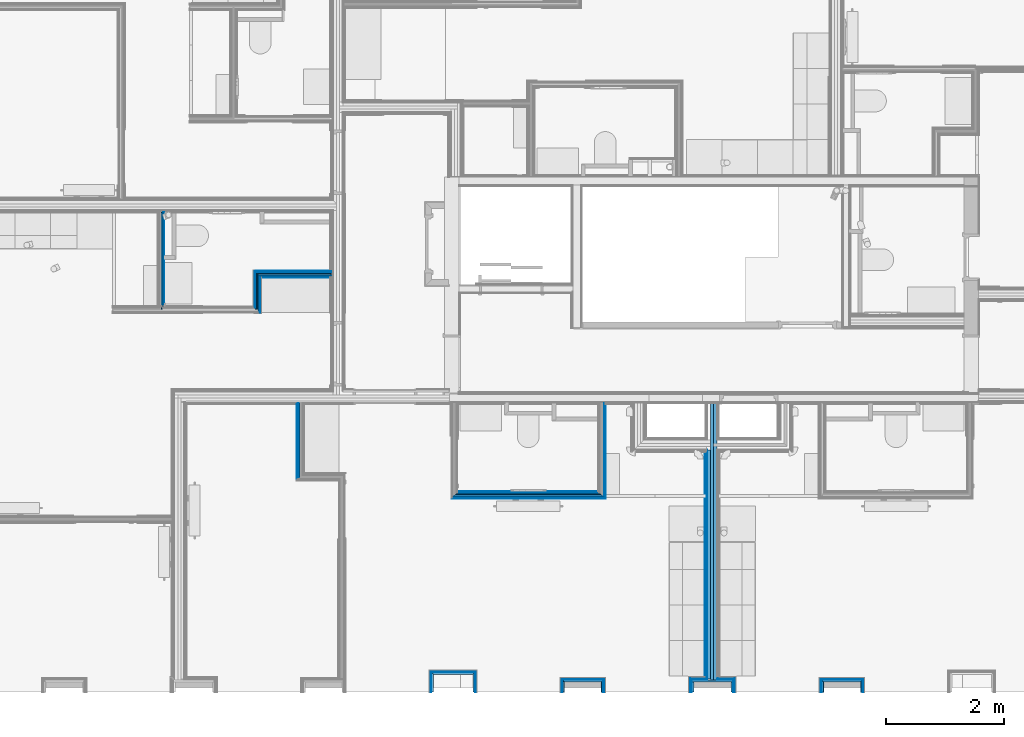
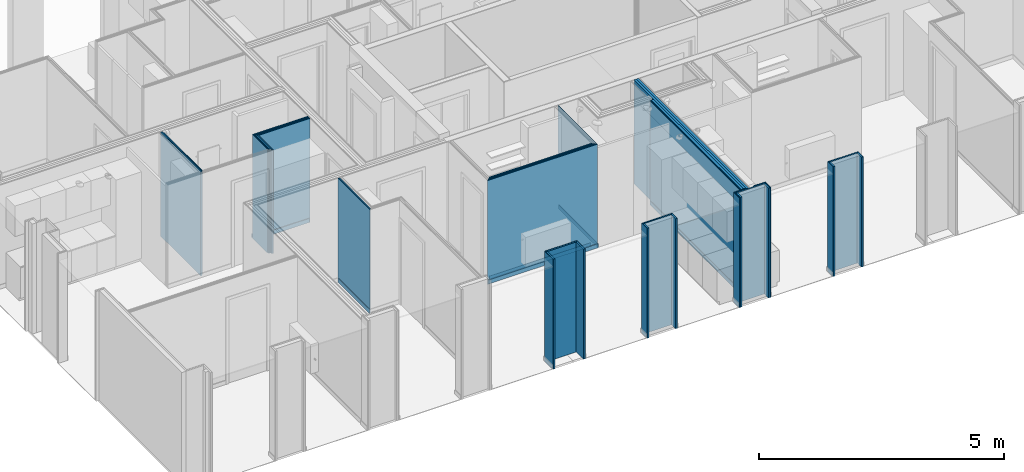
# One storey, part 11 of 82: 62 building element parts, 19 elements without a shape of their own.
"""IFC2X3 building model written with IfcOpenShell, lengths in metres."""

from ifc_helpers import new_model, entity, si_unit, converted_unit, derived_unit, money_unit, direction, frame, frame_2d, origin_with_axes, place, context, subcontext, project, spatial, polyline, rectangle, outline, extrude, material, type_object, element, aggregate, save


model = new_model("IFC2X3")

# Units and contexts
model_context = context("Model", 3, precision=1e-05, world=origin_with_axes(), true_north=direction((0.0, 1.0)))
body_context = subcontext(model_context, "Body", "Model", "MODEL_VIEW", scale=1.0)
ifc_project = project(units=[si_unit("LENGTHUNIT", "METRE"), si_unit("AREAUNIT", "SQUARE_METRE"), si_unit("VOLUMEUNIT", "CUBIC_METRE"), si_unit("ABSORBEDDOSEUNIT", "GRAY"), si_unit("AMOUNTOFSUBSTANCEUNIT", "MOLE"), si_unit("DOSEEQUIVALENTUNIT", "SIEVERT"), si_unit("ELECTRICCAPACITANCEUNIT", "FARAD"), si_unit("ELECTRICCHARGEUNIT", "COULOMB"), si_unit("ELECTRICCONDUCTANCEUNIT", "SIEMENS"), si_unit("ELECTRICCURRENTUNIT", "AMPERE"), si_unit("ELECTRICRESISTANCEUNIT", "OHM"), si_unit("ELECTRICVOLTAGEUNIT", "VOLT"), si_unit("ENERGYUNIT", "JOULE"), si_unit("FORCEUNIT", "NEWTON"), si_unit("FREQUENCYUNIT", "HERTZ"), si_unit("ILLUMINANCEUNIT", "LUX"), si_unit("INDUCTANCEUNIT", "HENRY"), si_unit("LUMINOUSFLUXUNIT", "LUMEN"), si_unit("LUMINOUSINTENSITYUNIT", "CANDELA"), si_unit("MAGNETICFLUXDENSITYUNIT", "TESLA"), si_unit("MAGNETICFLUXUNIT", "WEBER"), si_unit("MASSUNIT", "GRAM"), converted_unit("PLANEANGLEUNIT", "degree", entity("IfcReal", 0.0174532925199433), si_unit("PLANEANGLEUNIT", "RADIAN"), dimensions=[0, 0, 0, 0, 0, 0, 0]), si_unit("POWERUNIT", "WATT"), si_unit("PRESSUREUNIT", "PASCAL"), si_unit("RADIOACTIVITYUNIT", "BECQUEREL"), si_unit("SOLIDANGLEUNIT", "STERADIAN"), si_unit("THERMODYNAMICTEMPERATUREUNIT", "KELVIN"), si_unit("TIMEUNIT", "SECOND"), derived_unit("ACCELERATIONUNIT", [(si_unit("LENGTHUNIT", "METRE"), 1), (si_unit("TIMEUNIT", "SECOND"), -2)]), derived_unit("ANGULARVELOCITYUNIT", [(converted_unit("PLANEANGLEUNIT", "degree", entity("IfcReal", 0.0174532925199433), si_unit("PLANEANGLEUNIT", "RADIAN"), dimensions=[0, 0, 0, 0, 0, 0, 0]), 1), (si_unit("TIMEUNIT", "SECOND"), -1)]), derived_unit("CURVATUREUNIT", [(converted_unit("PLANEANGLEUNIT", "degree", entity("IfcReal", 0.0174532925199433), si_unit("PLANEANGLEUNIT", "RADIAN"), dimensions=[0, 0, 0, 0, 0, 0, 0]), 1), (si_unit("LENGTHUNIT", "METRE"), -1)]), derived_unit("DYNAMICVISCOSITYUNIT", [(si_unit("PRESSUREUNIT", "PASCAL"), 1), (si_unit("TIMEUNIT", "SECOND"), 1)]), derived_unit("HEATFLUXDENSITYUNIT", [(si_unit("POWERUNIT", "WATT"), 1), (si_unit("LENGTHUNIT", "METRE"), -2)]), derived_unit("HEATINGVALUEUNIT", [(si_unit("ENERGYUNIT", "JOULE"), 1), (si_unit("MASSUNIT", "GRAM"), -1)]), derived_unit("INTEGERCOUNTRATEUNIT", [(si_unit("TIMEUNIT", "SECOND"), -1)]), derived_unit("IONCONCENTRATIONUNIT", [(si_unit("MASSUNIT", "GRAM"), 1), (si_unit("VOLUMEUNIT", "CUBIC_METRE"), -1)]), derived_unit("ISOTHERMALMOISTURECAPACITYUNIT", [(si_unit("VOLUMEUNIT", "CUBIC_METRE"), 1), (si_unit("MASSUNIT", "GRAM"), -1)]), derived_unit("KINEMATICVISCOSITYUNIT", [(si_unit("AREAUNIT", "SQUARE_METRE"), 1), (si_unit("TIMEUNIT", "SECOND"), -1)]), derived_unit("LINEARFORCEUNIT", [(si_unit("FORCEUNIT", "NEWTON"), 1), (si_unit("LENGTHUNIT", "METRE"), -1)]), derived_unit("LINEARMOMENTUNIT", [(si_unit("FORCEUNIT", "NEWTON"), 1), (si_unit("LENGTHUNIT", "METRE"), -1)]), derived_unit("LINEARSTIFFNESSUNIT", [(si_unit("FORCEUNIT", "NEWTON"), 1), (si_unit("LENGTHUNIT", "METRE"), -1)]), derived_unit("LINEARVELOCITYUNIT", [(si_unit("LENGTHUNIT", "METRE"), 1), (si_unit("TIMEUNIT", "SECOND"), -1)]), derived_unit("LUMINOUSINTENSITYDISTRIBUTIONUNIT", [(si_unit("LUMINOUSINTENSITYUNIT", "CANDELA"), 1), (si_unit("LUMINOUSFLUXUNIT", "LUMEN"), -1)]), derived_unit("MASSDENSITYUNIT", [(si_unit("MASSUNIT", "GRAM"), 1), (si_unit("VOLUMEUNIT", "CUBIC_METRE"), -1)]), derived_unit("MASSFLOWRATEUNIT", [(si_unit("MASSUNIT", "GRAM"), 1), (si_unit("TIMEUNIT", "SECOND"), -1)]), derived_unit("MASSPERLENGTHUNIT", [(si_unit("MASSUNIT", "GRAM"), 1), (si_unit("LENGTHUNIT", "METRE"), -1)]), derived_unit("MODULUSOFELASTICITYUNIT", [(si_unit("FORCEUNIT", "NEWTON"), 1), (si_unit("AREAUNIT", "SQUARE_METRE"), -1)]), derived_unit("MODULUSOFLINEARSUBGRADEREACTIONUNIT", [(si_unit("FORCEUNIT", "NEWTON"), 1), (si_unit("LENGTHUNIT", "METRE"), -2)]), derived_unit("MODULUSOFROTATIONALSUBGRADEREACTIONUNIT", [(si_unit("FORCEUNIT", "NEWTON"), 1), (si_unit("LENGTHUNIT", "METRE"), 1)]), derived_unit("MODULUSOFSUBGRADEREACTIONUNIT", [(si_unit("FORCEUNIT", "NEWTON"), 1), (si_unit("VOLUMEUNIT", "CUBIC_METRE"), -1)]), derived_unit("MOISTUREDIFFUSIVITYUNIT", [(si_unit("VOLUMEUNIT", "CUBIC_METRE"), 1), (si_unit("TIMEUNIT", "SECOND"), -1)]), derived_unit("MOLECULARWEIGHTUNIT", [(si_unit("MASSUNIT", "GRAM"), 1), (si_unit("AMOUNTOFSUBSTANCEUNIT", "MOLE"), -1)]), derived_unit("PLANARFORCEUNIT", [(si_unit("FORCEUNIT", "NEWTON"), 1), (si_unit("LENGTHUNIT", "METRE"), -2)]), derived_unit("ROTATIONALFREQUENCYUNIT", [(si_unit("TIMEUNIT", "SECOND"), -1)]), derived_unit("ROTATIONALMASSUNIT", [(si_unit("MASSUNIT", "GRAM"), 1), (si_unit("LENGTHUNIT", "METRE"), 2)]), derived_unit("ROTATIONALSTIFFNESSUNIT", [(si_unit("FORCEUNIT", "NEWTON"), 1), (si_unit("LENGTHUNIT", "METRE"), 1), (converted_unit("PLANEANGLEUNIT", "degree", entity("IfcReal", 0.0174532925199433), si_unit("PLANEANGLEUNIT", "RADIAN"), dimensions=[0, 0, 0, 0, 0, 0, 0]), -1)]), derived_unit("SECTIONAREAINTEGRALUNIT", [(si_unit("LENGTHUNIT", "METRE"), 5)]), derived_unit("SECTIONMODULUSUNIT", [(si_unit("LENGTHUNIT", "METRE"), 3)]), derived_unit("SHEARMODULUSUNIT", [(si_unit("FORCEUNIT", "NEWTON"), 1), (si_unit("AREAUNIT", "SQUARE_METRE"), -1)]), derived_unit("SOUNDPOWERUNIT", [(si_unit("ENERGYUNIT", "JOULE"), 1), (si_unit("TIMEUNIT", "SECOND"), -1)]), derived_unit("SPECIFICHEATCAPACITYUNIT", [(si_unit("FORCEUNIT", "NEWTON"), 1), (si_unit("MASSUNIT", "GRAM"), -1), (si_unit("THERMODYNAMICTEMPERATUREUNIT", "KELVIN"), -1)]), derived_unit("TEMPERATUREGRADIENTUNIT", [(si_unit("THERMODYNAMICTEMPERATUREUNIT", "KELVIN"), 1), (si_unit("LENGTHUNIT", "METRE"), -1)]), derived_unit("THERMALADMITTANCEUNIT", [(si_unit("POWERUNIT", "WATT"), 1), (si_unit("AREAUNIT", "SQUARE_METRE"), -1), (si_unit("THERMODYNAMICTEMPERATUREUNIT", "KELVIN"), -1)]), derived_unit("THERMALCONDUCTANCEUNIT", [(si_unit("POWERUNIT", "WATT"), 1), (si_unit("LENGTHUNIT", "METRE"), -1), (si_unit("THERMODYNAMICTEMPERATUREUNIT", "KELVIN"), -1)]), derived_unit("THERMALEXPANSIONCOEFFICIENTUNIT", [(si_unit("THERMODYNAMICTEMPERATUREUNIT", "KELVIN"), -1)]), derived_unit("THERMALRESISTANCEUNIT", [(si_unit("AREAUNIT", "SQUARE_METRE"), 1), (si_unit("POWERUNIT", "WATT"), -1)]), derived_unit("THERMALTRANSMITTANCEUNIT", [(si_unit("POWERUNIT", "WATT"), 1), (si_unit("AREAUNIT", "SQUARE_METRE"), -1), (si_unit("THERMODYNAMICTEMPERATUREUNIT", "KELVIN"), -1)]), derived_unit("TORQUEUNIT", [(si_unit("FORCEUNIT", "NEWTON"), 1), (si_unit("LENGTHUNIT", "METRE"), 1)]), derived_unit("VAPORPERMEABILITYUNIT", [(si_unit("MASSUNIT", "GRAM"), 1), (si_unit("TIMEUNIT", "SECOND"), -1)]), derived_unit("VOLUMETRICFLOWRATEUNIT", [(si_unit("VOLUMEUNIT", "CUBIC_METRE"), 1), (si_unit("TIMEUNIT", "SECOND"), -1)]), derived_unit("WARPINGCONSTANTUNIT", [(si_unit("LENGTHUNIT", "METRE"), 6)]), derived_unit("WARPINGMOMENTUNIT", [(si_unit("FORCEUNIT", "NEWTON"), 1), (si_unit("LENGTHUNIT", "METRE"), 2)]), money_unit("GBP")], contexts=[model_context])

# Site, building, storey
site_placement = place(None, origin_with_axes())
site = spatial("IfcSite", under=ifc_project, at=site_placement, Name="Site", CompositionType="ELEMENT")
building_placement = place(site_placement, origin_with_axes())
building = spatial("IfcBuilding", under=site, at=building_placement, Name="Building01", CompositionType="ELEMENT")
storey_placement = place(building_placement, frame((0.0, 0.0, 12.13), z_axis=(0.0, 0.0, 1.0), x_axis=(1.0, 0.0, 0.0)))
storey = spatial("IfcBuildingStorey", under=building, at=storey_placement, Name="3F", CompositionType="ELEMENT", Elevation=12.13)

# Wall, building element parts
wall_type_1 = type_object("IfcWallType", Name="SHE_A-Walls_Type06d_ExternalWallInsulation_48mm", PredefinedType="NOTDEFINED")
wall_1_placement = place(storey_placement, frame((8.79, 0.1, 0.0), z_axis=(0.0, 0.0, 1.0), x_axis=(0.0, 1.0, 0.0)))
wall_1 = element("IfcWall", 1, at=wall_1_placement, inside=storey, type_object=wall_type_1, Name="6D", ObjectType="SHE_A-Walls_Type06d_ExternalWallInsulation_48mm")
ifc_material_1 = material(Name="A_BSUK_Insulation")
placement_1 = place(wall_1_placement, origin_with_axes())
building_element_part_1 = element("IfcBuildingElementPart", 2, at=placement_1, material=ifc_material_1, Name="1", context=body_context, shape_type="SweptSolid", body=[
    extrude(outline(polyline([(0.336, 0.036), (0.0, 0.036), (0.0, 0.0), (0.3, 0.0), (0.336, 0.036)])), origin_with_axes(), (0.0, 0.0, 1.0), 2.74),
])
ifc_material_2 = material(Name="A_BSUK_WallInternal_Finishes_Plasterboard")
building_element_part_2 = element("IfcBuildingElementPart", 3, at=placement_1, material=ifc_material_2, Name="2", context=body_context, shape_type="SweptSolid", body=[
    extrude(outline(polyline([(0.348, 0.048), (0.0, 0.048), (0.0, 0.035), (0.335, 0.035), (0.348, 0.048)])), origin_with_axes(), (0.0, 0.0, 1.0), 2.74),
])
aggregate(wall_1, [building_element_part_1, building_element_part_2])

wall_2_placement = place(storey_placement, frame((8.79, 0.4, 0.0), z_axis=(0.0, 0.0, 1.0), x_axis=(1.0, 0.0, 0.0)))
wall_2 = element("IfcWall", 4, at=wall_2_placement, inside=storey, type_object=wall_type_1, Name="6D", ObjectType="SHE_A-Walls_Type06d_ExternalWallInsulation_48mm")
placement_2 = place(wall_2_placement, origin_with_axes())
building_element_part_3 = element("IfcBuildingElementPart", 5, at=placement_2, material=ifc_material_1, Name="1", context=body_context, shape_type="SweptSolid", body=[
    extrude(outline(polyline([(0.706, 0.036), (-0.036, 0.036), (0.0, 0.0), (0.67, 0.0), (0.706, 0.036)])), origin_with_axes(), (0.0, 0.0, 1.0), 2.74),
])
building_element_part_4 = element("IfcBuildingElementPart", 6, at=placement_2, material=ifc_material_2, Name="2", context=body_context, shape_type="SweptSolid", body=[
    extrude(outline(polyline([(0.718, 0.048), (-0.048, 0.048), (-0.035, 0.035), (0.705, 0.035), (0.718, 0.048)])), origin_with_axes(), (0.0, 0.0, 1.0), 2.74),
])
aggregate(wall_2, [building_element_part_3, building_element_part_4])

wall_3_placement = place(storey_placement, frame((9.46, 0.4, 0.0), z_axis=(0.0, 0.0, 1.0), x_axis=(0.0, -1.0, 0.0)))
wall_3 = element("IfcWall", 7, at=wall_3_placement, inside=storey, type_object=wall_type_1, Name="6D", ObjectType="SHE_A-Walls_Type06d_ExternalWallInsulation_48mm")
placement_3 = place(wall_3_placement, origin_with_axes())
building_element_part_5 = element("IfcBuildingElementPart", 8, at=placement_3, material=ifc_material_1, Name="1", context=body_context, shape_type="SweptSolid", body=[
    extrude(outline(polyline([(-0.036, 0.036), (0.0, 0.0), (0.3, 0.0), (0.3, 0.036), (-0.036, 0.036)])), origin_with_axes(), (0.0, 0.0, 1.0), 2.74),
])
building_element_part_6 = element("IfcBuildingElementPart", 9, at=placement_3, material=ifc_material_2, Name="2", context=body_context, shape_type="SweptSolid", body=[
    extrude(outline(polyline([(-0.048, 0.048), (-0.035, 0.035), (0.3, 0.035), (0.3, 0.048), (-0.048, 0.048)])), origin_with_axes(), (0.0, 0.0, 1.0), 2.74),
])
aggregate(wall_3, [building_element_part_5, building_element_part_6])

wall_4_placement = place(storey_placement, frame((11.003, 0.1, 0.0), z_axis=(0.0, 0.0, 1.0), x_axis=(0.0, 1.0, 0.0)))
wall_4 = element("IfcWall", 10, at=wall_4_placement, inside=storey, type_object=wall_type_1, Name="6D", ObjectType="SHE_A-Walls_Type06d_ExternalWallInsulation_48mm")
placement_4 = place(wall_4_placement, origin_with_axes())
building_element_part_7 = element("IfcBuildingElementPart", 11, at=placement_4, material=ifc_material_1, Name="1", context=body_context, shape_type="SweptSolid", body=[
    extrude(outline(polyline([(0.206, 0.036), (0.0, 0.036), (0.0, 0.0), (0.17, 0.0), (0.206, 0.036)])), origin_with_axes(), (0.0, 0.0, 1.0), 2.74),
])
building_element_part_8 = element("IfcBuildingElementPart", 12, at=placement_4, material=ifc_material_2, Name="2", context=body_context, shape_type="SweptSolid", body=[
    extrude(outline(polyline([(0.218, 0.048), (0.0, 0.048), (0.0, 0.035), (0.205, 0.035), (0.218, 0.048)])), origin_with_axes(), (0.0, 0.0, 1.0), 2.74),
])
aggregate(wall_4, [building_element_part_7, building_element_part_8])

wall_5_placement = place(storey_placement, frame((11.003, 0.27, 0.0), z_axis=(0.0, 0.0, 1.0), x_axis=(1.0, 0.0, 0.0)))
wall_5 = element("IfcWall", 13, at=wall_5_placement, inside=storey, type_object=wall_type_1, Name="6D", ObjectType="SHE_A-Walls_Type06d_ExternalWallInsulation_48mm")
placement_5 = place(wall_5_placement, origin_with_axes())
building_element_part_9 = element("IfcBuildingElementPart", 14, at=placement_5, material=ifc_material_1, Name="1", context=body_context, shape_type="SweptSolid", body=[
    extrude(outline(polyline([(0.66, 0.036), (-0.036, 0.036), (0.0, 0.0), (0.624, 0.0), (0.66, 0.036)])), origin_with_axes(), (0.0, 0.0, 1.0), 2.74),
])
building_element_part_10 = element("IfcBuildingElementPart", 15, at=placement_5, material=ifc_material_2, Name="2", context=body_context, shape_type="SweptSolid", body=[
    extrude(outline(polyline([(0.672, 0.048), (-0.048, 0.048), (-0.035, 0.035), (0.659, 0.035), (0.672, 0.048)])), origin_with_axes(), (0.0, 0.0, 1.0), 2.74),
])
aggregate(wall_5, [building_element_part_9, building_element_part_10])

wall_6_placement = place(storey_placement, frame((11.627, 0.27, 0.0), z_axis=(0.0, 0.0, 1.0), x_axis=(0.0, -1.0, 0.0)))
wall_6 = element("IfcWall", 16, at=wall_6_placement, inside=storey, type_object=wall_type_1, Name="6D", ObjectType="SHE_A-Walls_Type06d_ExternalWallInsulation_48mm")
placement_6 = place(wall_6_placement, origin_with_axes())
building_element_part_11 = element("IfcBuildingElementPart", 17, at=placement_6, material=ifc_material_1, Name="1", context=body_context, shape_type="SweptSolid", body=[
    extrude(outline(polyline([(-0.036, 0.036), (0.0, 0.0), (0.17, 0.0), (0.17, 0.036), (-0.036, 0.036)])), origin_with_axes(), (0.0, 0.0, 1.0), 2.74),
])
building_element_part_12 = element("IfcBuildingElementPart", 18, at=placement_6, material=ifc_material_2, Name="2", context=body_context, shape_type="SweptSolid", body=[
    extrude(outline(polyline([(-0.048, 0.048), (-0.035, 0.035), (0.17, 0.035), (0.17, 0.048), (-0.048, 0.048)])), origin_with_axes(), (0.0, 0.0, 1.0), 2.74),
])
aggregate(wall_6, [building_element_part_11, building_element_part_12])

wall_7_placement = place(storey_placement, frame((15.383, 0.1, 0.0), z_axis=(0.0, 0.0, 1.0), x_axis=(0.0, 1.0, 0.0)))
wall_7 = element("IfcWall", 19, at=wall_7_placement, inside=storey, type_object=wall_type_1, Name="6D", ObjectType="SHE_A-Walls_Type06d_ExternalWallInsulation_48mm")
placement_7 = place(wall_7_placement, origin_with_axes())
building_element_part_13 = element("IfcBuildingElementPart", 20, at=placement_7, material=ifc_material_1, Name="1", context=body_context, shape_type="SweptSolid", body=[
    extrude(outline(polyline([(0.206, 0.036), (0.0, 0.036), (0.0, 0.0), (0.17, 0.0), (0.206, 0.036)])), origin_with_axes(), (0.0, 0.0, 1.0), 2.74),
])
building_element_part_14 = element("IfcBuildingElementPart", 21, at=placement_7, material=ifc_material_2, Name="2", context=body_context, shape_type="SweptSolid", body=[
    extrude(outline(polyline([(0.218, 0.048), (0.0, 0.048), (0.0, 0.035), (0.205, 0.035), (0.218, 0.048)])), origin_with_axes(), (0.0, 0.0, 1.0), 2.74),
])
aggregate(wall_7, [building_element_part_13, building_element_part_14])

wall_8_placement = place(storey_placement, frame((15.383, 0.27, 0.0), z_axis=(0.0, 0.0, 1.0), x_axis=(1.0, 0.0, 0.0)))
wall_8 = element("IfcWall", 22, at=wall_8_placement, inside=storey, type_object=wall_type_1, Name="6D", ObjectType="SHE_A-Walls_Type06d_ExternalWallInsulation_48mm")
placement_8 = place(wall_8_placement, origin_with_axes())
building_element_part_15 = element("IfcBuildingElementPart", 23, at=placement_8, material=ifc_material_1, Name="1", context=body_context, shape_type="SweptSolid", body=[
    extrude(outline(polyline([(0.66, 0.036), (-0.036, 0.036), (0.0, 0.0), (0.624, 0.0), (0.66, 0.036)])), origin_with_axes(), (0.0, 0.0, 1.0), 2.74),
])
building_element_part_16 = element("IfcBuildingElementPart", 24, at=placement_8, material=ifc_material_2, Name="2", context=body_context, shape_type="SweptSolid", body=[
    extrude(outline(polyline([(0.672, 0.048), (-0.048, 0.048), (-0.035, 0.035), (0.659, 0.035), (0.672, 0.048)])), origin_with_axes(), (0.0, 0.0, 1.0), 2.74),
])
aggregate(wall_8, [building_element_part_15, building_element_part_16])

wall_9_placement = place(storey_placement, frame((16.007, 0.27, 0.0), z_axis=(0.0, 0.0, 1.0), x_axis=(0.0, -1.0, 0.0)))
wall_9 = element("IfcWall", 25, at=wall_9_placement, inside=storey, type_object=wall_type_1, Name="6D", ObjectType="SHE_A-Walls_Type06d_ExternalWallInsulation_48mm")
placement_9 = place(wall_9_placement, origin_with_axes())
building_element_part_17 = element("IfcBuildingElementPart", 26, at=placement_9, material=ifc_material_1, Name="1", context=body_context, shape_type="SweptSolid", body=[
    extrude(outline(polyline([(-0.036, 0.036), (0.0, 0.0), (0.17, 0.0), (0.17, 0.036), (-0.036, 0.036)])), origin_with_axes(), (0.0, 0.0, 1.0), 2.74),
])
building_element_part_18 = element("IfcBuildingElementPart", 27, at=placement_9, material=ifc_material_2, Name="2", context=body_context, shape_type="SweptSolid", body=[
    extrude(outline(polyline([(-0.048, 0.048), (-0.035, 0.035), (0.17, 0.035), (0.17, 0.048), (-0.048, 0.048)])), origin_with_axes(), (0.0, 0.0, 1.0), 2.74),
])
aggregate(wall_9, [building_element_part_17, building_element_part_18])

wall_type_2 = type_object("IfcWallType", Name="SHE_A-Walls_Type01c_Partywall_225mm_twin_tall", PredefinedType="NOTDEFINED")
wall_10_placement = place(storey_placement, frame((13.5005, 4.995, 0.0), z_axis=(0.0, 0.0, 1.0), x_axis=(0.0, -1.0, 0.0)))
wall_10 = element("IfcWall", 28, at=wall_10_placement, inside=storey, type_object=wall_type_2, Name="1C", ObjectType="SHE_A-Walls_Type01c_Partywall_225mm_twin_tall")
ifc_material_3 = material(Name="A_BSUK_Walls_Timber")
placement_10 = place(wall_10_placement, origin_with_axes())
building_element_part_19 = element("IfcBuildingElementPart", 29, at=placement_10, material=ifc_material_3, Name="1", context=body_context, shape_type="SweptSolid", body=[
    extrude(rectangle(XDim=3.831428, YDim=0.015, at=frame_2d((2.746286, -0.1205), x_axis=(-1.0, 0.0))), frame((0.0, 0.0, 0.015), z_axis=(0.0, 0.0, 1.0), x_axis=(1.0, 0.0, 0.0)), (0.0, 0.0, 1.0), 0.1),
])
building_element_part_20 = element("IfcBuildingElementPart", 30, at=placement_10, material=ifc_material_2, Name="3", context=body_context, shape_type="SweptSolid", body=[
    extrude(rectangle(XDim=3.846428, YDim=0.015, at=frame_2d((2.738786, -0.1055), x_axis=(-1.0, 0.0))), origin_with_axes(), (0.0, 0.0, 1.0), 2.59),
])
building_element_part_21 = element("IfcBuildingElementPart", 31, at=placement_10, material=ifc_material_2, Name="5", context=body_context, shape_type="SweptSolid", body=[
    extrude(rectangle(XDim=3.876428, YDim=0.015, at=frame_2d((2.738786, -0.0905), x_axis=(-1.0, 0.0))), origin_with_axes(), (0.0, 0.0, 1.0), 2.59),
])
ifc_material_4 = material(Name="Air Cavity")
building_element_part_22 = element("IfcBuildingElementPart", 32, at=placement_10, material=ifc_material_4, Name="6", context=body_context, shape_type="SweptSolid", body=[
    extrude(rectangle(XDim=3.876428, YDim=0.058, at=frame_2d((2.738786, -0.054), x_axis=(-1.0, 0.0))), origin_with_axes(), (0.0, 0.0, 1.0), 2.59),
])
building_element_part_23 = element("IfcBuildingElementPart", 33, at=placement_10, material=ifc_material_1, Name="7", context=body_context, shape_type="SweptSolid", body=[
    extrude(rectangle(XDim=4.689, YDim=0.05, at=frame_2d((2.3445, 0.0), x_axis=(-1.0, 0.0))), origin_with_axes(), (0.0, 0.0, 1.0), 2.59),
])
building_element_part_24 = element("IfcBuildingElementPart", 34, at=placement_10, material=ifc_material_4, Name="8", context=body_context, shape_type="SweptSolid", body=[
    extrude(rectangle(XDim=4.689, YDim=0.057, at=frame_2d((2.3445, 0.0535), x_axis=(-1.0, 0.0))), origin_with_axes(), (0.0, 0.0, 1.0), 2.59),
])
aggregate(wall_10, [building_element_part_19, building_element_part_20, building_element_part_21, building_element_part_22, building_element_part_23, building_element_part_24])

wall_type_3 = type_object("IfcWallType", Name="SHE_A-Walls_Type05a_Partition_95mm_tall", PredefinedType="NOTDEFINED")
wall_11_placement = place(storey_placement, frame((4.20573, 6.571475, 0.0), z_axis=(0.0, 0.0, 1.0), x_axis=(0.0, 1.0, 0.0)))
wall_11 = element("IfcWall", 35, at=wall_11_placement, inside=storey, type_object=wall_type_3, Name="5A", ObjectType="SHE_A-Walls_Type05a_Partition_95mm_tall")
placement_11 = place(wall_11_placement, origin_with_axes())
building_element_part_25 = element("IfcBuildingElementPart", 36, at=placement_11, material=ifc_material_2, Name="2", context=body_context, shape_type="SweptSolid", body=[
    extrude(rectangle(XDim=1.604195, YDim=0.012, at=frame_2d((0.837097, -0.029), x_axis=(-1.0, 0.0))), origin_with_axes(), (0.0, 0.0, 1.0), 2.59),
])
building_element_part_26 = element("IfcBuildingElementPart", 37, at=placement_11, material=ifc_material_4, Name="3", context=body_context, shape_type="SweptSolid", body=[
    extrude(rectangle(XDim=1.604195, YDim=0.023, at=frame_2d((0.837097, -0.0115), x_axis=(-1.0, 0.0))), origin_with_axes(), (0.0, 0.0, 1.0), 2.59),
])
building_element_part_27 = element("IfcBuildingElementPart", 38, at=placement_11, material=ifc_material_1, Name="4", context=body_context, shape_type="SweptSolid", body=[
    extrude(rectangle(XDim=1.639195, YDim=0.025, at=frame_2d((0.819597, 0.0125), x_axis=(-1.0, 0.0))), origin_with_axes(), (0.0, 0.0, 1.0), 2.59),
])
aggregate(wall_11, [building_element_part_25, building_element_part_26, building_element_part_27])

wall_12_placement = place(storey_placement, frame((5.804669, 6.571475, 0.0), z_axis=(0.0, 0.0, 1.0), x_axis=(0.0, 1.0, 0.0)))
wall_12 = element("IfcWall", 39, at=wall_12_placement, inside=storey, type_object=wall_type_3, Name="5A", ObjectType="SHE_A-Walls_Type05a_Partition_95mm_tall")
placement_12 = place(wall_12_placement, origin_with_axes())
building_element_part_28 = element("IfcBuildingElementPart", 40, at=placement_12, material=ifc_material_2, Name="2", context=body_context, shape_type="SweptSolid", body=[
    extrude(outline(polyline([(0.552, -0.048), (-0.048, -0.048), (-0.06, -0.06), (0.54, -0.06), (0.552, -0.048)])), origin_with_axes(), (0.0, 0.0, 1.0), 2.59),
])
building_element_part_29 = element("IfcBuildingElementPart", 41, at=placement_12, material=ifc_material_4, Name="3", context=body_context, shape_type="SweptSolid", body=[
    extrude(outline(polyline([(0.575, -0.025), (-0.025, -0.025), (-0.048, -0.048), (0.552, -0.048), (0.575, -0.025)])), origin_with_axes(), (0.0, 0.0, 1.0), 2.59),
])
building_element_part_30 = element("IfcBuildingElementPart", 42, at=placement_12, material=ifc_material_1, Name="4", context=body_context, shape_type="SweptSolid", body=[
    extrude(outline(polyline([(0.6, 0.0), (0.0, 0.0), (0.0, -0.025), (0.575, -0.025), (0.6, 0.0)])), origin_with_axes(), (0.0, 0.0, 1.0), 2.59),
])
building_element_part_31 = element("IfcBuildingElementPart", 43, at=placement_12, material=ifc_material_4, Name="5", context=body_context, shape_type="SweptSolid", body=[
    extrude(outline(polyline([(0.623, 0.023), (0.0, 0.023), (0.0, 0.0), (0.6, 0.0), (0.623, 0.023)])), origin_with_axes(), (0.0, 0.0, 1.0), 2.59),
])
building_element_part_32 = element("IfcBuildingElementPart", 44, at=placement_12, material=ifc_material_2, Name="6", context=body_context, shape_type="SweptSolid", body=[
    extrude(outline(polyline([(0.635, 0.035), (0.035, 0.035), (0.023, 0.023), (0.623, 0.023), (0.635, 0.035)])), origin_with_axes(), (0.0, 0.0, 1.0), 2.59),
])
aggregate(wall_12, [building_element_part_28, building_element_part_29, building_element_part_30, building_element_part_31, building_element_part_32])

wall_13_placement = place(storey_placement, frame((5.804669, 7.171475, 0.0), z_axis=(0.0, 0.0, 1.0), x_axis=(1.0, 0.0, 0.0)))
wall_13 = element("IfcWall", 45, at=wall_13_placement, inside=storey, type_object=wall_type_3, Name="5A", ObjectType="SHE_A-Walls_Type05a_Partition_95mm_tall")
placement_13 = place(wall_13_placement, origin_with_axes())
building_element_part_33 = element("IfcBuildingElementPart", 46, at=placement_13, material=ifc_material_3, Name="1", context=body_context, shape_type="SweptSolid", body=[
    extrude(outline(polyline([(1.245, -0.06), (0.06, -0.06), (0.075, -0.075), (1.245, -0.075), (1.245, -0.06)])), frame((0.0, 0.0, 0.015), z_axis=(0.0, 0.0, 1.0), x_axis=(1.0, 0.0, 0.0)), (0.0, 0.0, 1.0), 0.1),
])
building_element_part_34 = element("IfcBuildingElementPart", 47, at=placement_13, material=ifc_material_2, Name="2", context=body_context, shape_type="SweptSolid", body=[
    extrude(outline(polyline([(1.26, -0.048), (0.048, -0.048), (0.06, -0.06), (1.26, -0.06), (1.26, -0.048)])), origin_with_axes(), (0.0, 0.0, 1.0), 2.59),
])
building_element_part_35 = element("IfcBuildingElementPart", 48, at=placement_13, material=ifc_material_4, Name="3", context=body_context, shape_type="SweptSolid", body=[
    extrude(outline(polyline([(1.26, -0.025), (0.025, -0.025), (0.048, -0.048), (1.26, -0.048), (1.26, -0.025)])), origin_with_axes(), (0.0, 0.0, 1.0), 2.59),
])
building_element_part_36 = element("IfcBuildingElementPart", 49, at=placement_13, material=ifc_material_1, Name="4", context=body_context, shape_type="SweptSolid", body=[
    extrude(outline(polyline([(1.26, 0.0), (0.0, 0.0), (0.025, -0.025), (1.26, -0.025), (1.26, 0.0)])), origin_with_axes(), (0.0, 0.0, 1.0), 2.59),
])
building_element_part_37 = element("IfcBuildingElementPart", 50, at=placement_13, material=ifc_material_4, Name="5", context=body_context, shape_type="SweptSolid", body=[
    extrude(outline(polyline([(1.26, 0.023), (-0.023, 0.023), (0.0, 0.0), (1.26, 0.0), (1.26, 0.023)])), origin_with_axes(), (0.0, 0.0, 1.0), 2.59),
])
building_element_part_38 = element("IfcBuildingElementPart", 51, at=placement_13, material=ifc_material_2, Name="6", context=body_context, shape_type="SweptSolid", body=[
    extrude(outline(polyline([(1.26, 0.035), (-0.035, 0.035), (-0.023, 0.023), (1.26, 0.023), (1.26, 0.035)])), origin_with_axes(), (0.0, 0.0, 1.0), 2.59),
])
building_element_part_39 = element("IfcBuildingElementPart", 52, at=placement_13, material=ifc_material_3, Name="7", context=body_context, shape_type="SweptSolid", body=[
    extrude(outline(polyline([(1.245, 0.05), (-0.05, 0.05), (-0.035, 0.035), (1.245, 0.035), (1.245, 0.05)])), frame((0.0, 0.0, 0.015), z_axis=(0.0, 0.0, 1.0), x_axis=(1.0, 0.0, 0.0)), (0.0, 0.0, 1.0), 0.1),
])
aggregate(wall_13, [building_element_part_33, building_element_part_34, building_element_part_35, building_element_part_36, building_element_part_37, building_element_part_38, building_element_part_39])

wall_14_placement = place(storey_placement, frame((9.132536, 3.42, 0.0), z_axis=(0.0, 0.0, 1.0), x_axis=(1.0, 0.0, 0.0)))
wall_14 = element("IfcWall", 53, at=wall_14_placement, inside=storey, type_object=wall_type_3, Name="5A", ObjectType="SHE_A-Walls_Type05a_Partition_95mm_tall")
placement_14 = place(wall_14_placement, origin_with_axes())
building_element_part_40 = element("IfcBuildingElementPart", 54, at=placement_14, material=ifc_material_3, Name="1", context=body_context, shape_type="SweptSolid", body=[
    extrude(outline(polyline([(2.555, -0.035), (-0.035, -0.035), (-0.035, -0.05), (2.57, -0.05), (2.555, -0.035)])), frame((0.0, 0.0, 0.015), z_axis=(0.0, 0.0, 1.0), x_axis=(1.0, 0.0, 0.0)), (0.0, 0.0, 1.0), 0.1),
])
building_element_part_41 = element("IfcBuildingElementPart", 55, at=placement_14, material=ifc_material_2, Name="2", context=body_context, shape_type="SweptSolid", body=[
    extrude(outline(polyline([(2.543, -0.023), (-0.023, -0.023), (-0.035, -0.035), (2.555, -0.035), (2.543, -0.023)])), origin_with_axes(), (0.0, 0.0, 1.0), 2.59),
])
building_element_part_42 = element("IfcBuildingElementPart", 56, at=placement_14, material=ifc_material_4, Name="3", context=body_context, shape_type="SweptSolid", body=[
    extrude(outline(polyline([(2.52, 0.0), (0.0, 0.0), (-0.023, -0.023), (2.543, -0.023), (2.52, 0.0)])), origin_with_axes(), (0.0, 0.0, 1.0), 2.59),
])
building_element_part_43 = element("IfcBuildingElementPart", 57, at=placement_14, material=ifc_material_1, Name="4", context=body_context, shape_type="SweptSolid", body=[
    extrude(outline(polyline([(2.495, 0.025), (0.025, 0.025), (0.0, 0.0), (2.52, 0.0), (2.495, 0.025)])), origin_with_axes(), (0.0, 0.0, 1.0), 2.59),
])
building_element_part_44 = element("IfcBuildingElementPart", 58, at=placement_14, material=ifc_material_4, Name="5", context=body_context, shape_type="SweptSolid", body=[
    extrude(outline(polyline([(2.472, 0.048), (0.048, 0.048), (0.025, 0.025), (2.495, 0.025), (2.472, 0.048)])), origin_with_axes(), (0.0, 0.0, 1.0), 2.59),
])
building_element_part_45 = element("IfcBuildingElementPart", 59, at=placement_14, material=ifc_material_2, Name="6", context=body_context, shape_type="SweptSolid", body=[
    extrude(outline(polyline([(2.46, 0.06), (0.06, 0.06), (0.048, 0.048), (2.472, 0.048), (2.46, 0.06)])), origin_with_axes(), (0.0, 0.0, 1.0), 2.59),
])
building_element_part_46 = element("IfcBuildingElementPart", 60, at=placement_14, material=ifc_material_3, Name="7", context=body_context, shape_type="SweptSolid", body=[
    extrude(outline(polyline([(2.445, 0.075), (0.06, 0.075), (0.06, 0.06), (2.46, 0.06), (2.445, 0.075)])), frame((0.0, 0.0, 0.015), z_axis=(0.0, 0.0, 1.0), x_axis=(1.0, 0.0, 0.0)), (0.0, 0.0, 1.0), 0.1),
])
aggregate(wall_14, [building_element_part_40, building_element_part_41, building_element_part_42, building_element_part_43, building_element_part_44, building_element_part_45, building_element_part_46])

wall_15_placement = place(storey_placement, frame((11.652536, 3.42, 0.0), z_axis=(0.0, 0.0, 1.0), x_axis=(0.0, 1.0, 0.0)))
wall_15 = element("IfcWall", 61, at=wall_15_placement, inside=storey, type_object=wall_type_3, Name="5A", ObjectType="SHE_A-Walls_Type05a_Partition_95mm_tall")
placement_15 = place(wall_15_placement, origin_with_axes())
building_element_part_47 = element("IfcBuildingElementPart", 62, at=placement_15, material=ifc_material_3, Name="1", context=body_context, shape_type="SweptSolid", body=[
    extrude(outline(polyline([(1.56, -0.035), (-0.035, -0.035), (-0.05, -0.05), (1.56, -0.05), (1.56, -0.035)])), frame((0.0, 0.0, 0.015), z_axis=(0.0, 0.0, 1.0), x_axis=(1.0, 0.0, 0.0)), (0.0, 0.0, 1.0), 0.1),
])
building_element_part_48 = element("IfcBuildingElementPart", 63, at=placement_15, material=ifc_material_2, Name="2", context=body_context, shape_type="SweptSolid", body=[
    extrude(outline(polyline([(1.56, -0.023), (-0.023, -0.023), (-0.035, -0.035), (1.56, -0.035), (1.56, -0.023)])), origin_with_axes(), (0.0, 0.0, 1.0), 2.59),
])
aggregate(wall_15, [building_element_part_47, building_element_part_48])

wall_16_placement = place(storey_placement, frame((6.535, 3.72, 0.0), z_axis=(0.0, 0.0, 1.0), x_axis=(0.0, 1.0, 0.0)))
wall_16 = element("IfcWall", 64, at=wall_16_placement, inside=storey, type_object=wall_type_3, Name="5A", ObjectType="SHE_A-Walls_Type05a_Partition_95mm_tall")
placement_16 = place(wall_16_placement, origin_with_axes())
building_element_part_49 = element("IfcBuildingElementPart", 65, at=placement_16, material=ifc_material_4, Name="5", context=body_context, shape_type="SweptSolid", body=[
    extrude(outline(polyline([(1.26, 0.023), (-0.023, 0.023), (0.0, 0.0), (1.26, 0.0), (1.26, 0.023)])), origin_with_axes(), (0.0, 0.0, 1.0), 2.59),
])
building_element_part_50 = element("IfcBuildingElementPart", 66, at=placement_16, material=ifc_material_2, Name="6", context=body_context, shape_type="SweptSolid", body=[
    extrude(outline(polyline([(1.26, 0.035), (-0.035, 0.035), (-0.023, 0.023), (1.26, 0.023), (1.26, 0.035)])), origin_with_axes(), (0.0, 0.0, 1.0), 2.59),
])
building_element_part_51 = element("IfcBuildingElementPart", 67, at=placement_16, material=ifc_material_3, Name="7", context=body_context, shape_type="SweptSolid", body=[
    extrude(outline(polyline([(1.245, 0.05), (-0.05, 0.05), (-0.035, 0.035), (1.245, 0.035), (1.245, 0.05)])), frame((0.0, 0.0, 0.015), z_axis=(0.0, 0.0, 1.0), x_axis=(1.0, 0.0, 0.0)), (0.0, 0.0, 1.0), 0.1),
])
aggregate(wall_16, [building_element_part_49, building_element_part_50, building_element_part_51])

wall_type_4 = type_object("IfcWallType", Name="SHE_A-Walls_Type06f_ExternalWallInsulation_48+15mm", PredefinedType="NOTDEFINED")
wall_17_placement = place(storey_placement, frame((13.193, 0.1, 0.0), z_axis=(0.0, 0.0, 1.0), x_axis=(0.0, -1.0, 0.0)))
wall_17 = element("IfcWall", 68, at=wall_17_placement, inside=storey, type_object=wall_type_4, Name="6F", ObjectType="SHE_A-Walls_Type06f_ExternalWallInsulation_48+15mm")
placement_17 = place(wall_17_placement, origin_with_axes())
building_element_part_52 = element("IfcBuildingElementPart", 69, at=placement_17, material=ifc_material_2, Name="2", context=body_context, shape_type="SweptSolid", body=[
    extrude(outline(polyline([(-0.233, -0.063), (0.0, -0.063), (0.0, -0.048), (-0.218, -0.048), (-0.233, -0.063)])), origin_with_axes(), (0.0, 0.0, 1.0), 2.74),
])
building_element_part_53 = element("IfcBuildingElementPart", 70, at=placement_17, material=ifc_material_2, Name="3", context=body_context, shape_type="SweptSolid", body=[
    extrude(rectangle(XDim=0.206, YDim=0.012, at=frame_2d((-0.103, -0.042), x_axis=(1.0, 0.0))), origin_with_axes(), (0.0, 0.0, 1.0), 2.74),
])
building_element_part_54 = element("IfcBuildingElementPart", 71, at=placement_17, material=ifc_material_1, Name="4", context=body_context, shape_type="SweptSolid", body=[
    extrude(rectangle(XDim=0.17, YDim=0.036, at=frame_2d((-0.085, -0.018), x_axis=(1.0, 0.0))), origin_with_axes(), (0.0, 0.0, 1.0), 2.74),
])
aggregate(wall_17, [building_element_part_52, building_element_part_53, building_element_part_54])

wall_18_placement = place(storey_placement, frame((13.817124, 0.1, 0.0), z_axis=(0.0, 0.0, 1.0), x_axis=(0.0, -1.0, 0.0)))
wall_18 = element("IfcWall", 72, at=wall_18_placement, inside=storey, type_object=wall_type_4, Name="6F", ObjectType="SHE_A-Walls_Type06f_ExternalWallInsulation_48+15mm")
placement_18 = place(wall_18_placement, origin_with_axes())
building_element_part_55 = element("IfcBuildingElementPart", 73, at=placement_18, material=ifc_material_1, Name="1", context=body_context, shape_type="SweptSolid", body=[
    extrude(rectangle(XDim=0.17, YDim=0.036, at=frame_2d((-0.085, 0.018), x_axis=(1.0, 0.0))), origin_with_axes(), (0.0, 0.0, 1.0), 2.74),
])
building_element_part_56 = element("IfcBuildingElementPart", 74, at=placement_18, material=ifc_material_2, Name="2", context=body_context, shape_type="SweptSolid", body=[
    extrude(rectangle(XDim=0.206, YDim=0.012, at=frame_2d((-0.103, 0.042), x_axis=(1.0, 0.0))), origin_with_axes(), (0.0, 0.0, 1.0), 2.74),
])
building_element_part_57 = element("IfcBuildingElementPart", 75, at=placement_18, material=ifc_material_2, Name="3", context=body_context, shape_type="SweptSolid", body=[
    extrude(outline(polyline([(-0.218, 0.048), (0.0, 0.048), (0.0, 0.063), (-0.233, 0.063), (-0.218, 0.048)])), origin_with_axes(), (0.0, 0.0, 1.0), 2.74),
])
aggregate(wall_18, [building_element_part_55, building_element_part_56, building_element_part_57])

wall_19_placement = place(storey_placement, frame((13.853124, 0.27, 0.0), z_axis=(0.0, 0.0, 1.0), x_axis=(-1.0, 0.0, 0.0)))
wall_19 = element("IfcWall", 76, at=wall_19_placement, inside=storey, type_object=wall_type_4, Name="6F", ObjectType="SHE_A-Walls_Type06f_ExternalWallInsulation_48+15mm")
placement_19 = place(wall_19_placement, origin_with_axes())
building_element_part_58 = element("IfcBuildingElementPart", 77, at=placement_19, material=ifc_material_2, Name="3", context=body_context, shape_type="SweptSolid", body=[
    extrude(outline(polyline([(-0.012, -0.048), (-0.027, -0.063), (0.255624, -0.063), (0.255624, -0.048), (-0.012, -0.048)])), origin_with_axes(), (0.0, 0.0, 1.0), 2.74),
])
building_element_part_59 = element("IfcBuildingElementPart", 78, at=placement_19, material=ifc_material_2, Name="4", context=body_context, shape_type="SweptSolid", body=[
    extrude(outline(polyline([(0.708124, -0.048), (0.450624, -0.048), (0.450624, -0.063), (0.723124, -0.063), (0.708124, -0.048)])), origin_with_axes(), (0.0, 0.0, 1.0), 2.74),
])
building_element_part_60 = element("IfcBuildingElementPart", 79, at=placement_19, material=ifc_material_2, Name="5", context=body_context, shape_type="SweptSolid", body=[
    extrude(rectangle(XDim=0.012, YDim=0.282624, at=frame_2d((0.129312, -0.042), x_axis=(0.0, -1.0))), origin_with_axes(), (0.0, 0.0, 1.0), 2.74),
])
building_element_part_61 = element("IfcBuildingElementPart", 80, at=placement_19, material=ifc_material_2, Name="6", context=body_context, shape_type="SweptSolid", body=[
    extrude(rectangle(XDim=0.2725, YDim=0.012, at=frame_2d((0.571874, -0.042), x_axis=(-1.0, 0.0))), origin_with_axes(), (0.0, 0.0, 1.0), 2.74),
])
building_element_part_62 = element("IfcBuildingElementPart", 81, at=placement_19, material=ifc_material_1, Name="7", context=body_context, shape_type="SweptSolid", body=[
    extrude(rectangle(XDim=0.696124, YDim=0.036, at=frame_2d((0.348062, -0.018), x_axis=(-1.0, 0.0))), origin_with_axes(), (0.0, 0.0, 1.0), 2.74),
])
aggregate(wall_19, [building_element_part_58, building_element_part_59, building_element_part_60, building_element_part_61, building_element_part_62])

save(model, "model.ifc")
